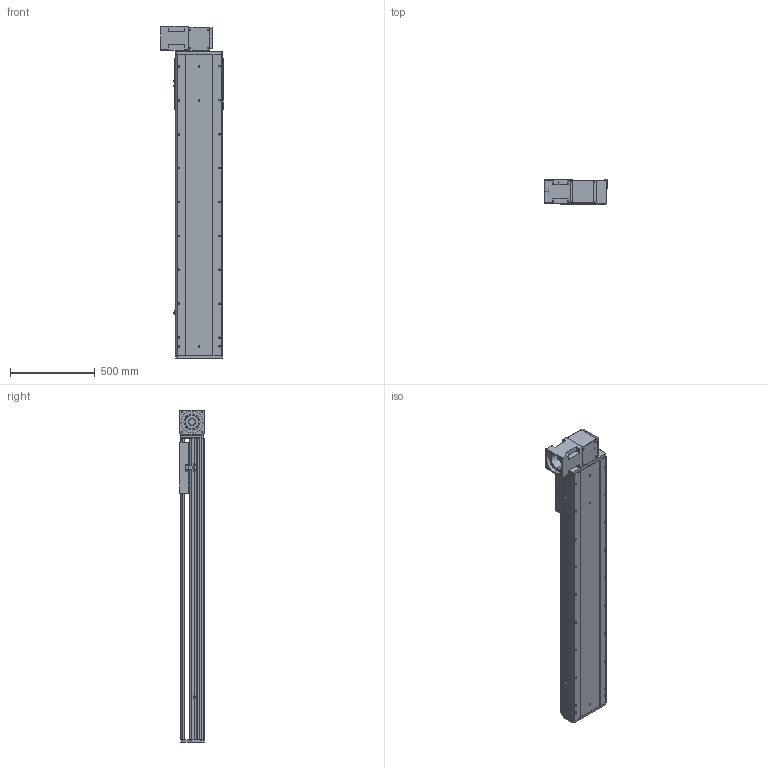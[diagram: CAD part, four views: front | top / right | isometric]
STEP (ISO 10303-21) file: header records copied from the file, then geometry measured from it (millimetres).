
FILE_DESCRIPTION (( 'STEP AP214' ), '1' );
FILE_NAME ('RTB28R-XX-1350-BR-M100-XX-C4.STEP', '2025-12-22T01:12:33', ( '' ), ( '' ), 'SwSTEP 2.0', 'SolidWorks 2018', '' );
FILE_SCHEMA (( 'AUTOMOTIVE_DESIGN' ));
Length unit declared in the file: millimetre
Products named in the file (4): RTB28S-GY-004^RTB28R-XX-XX-BR-M100-XX-C4; RTB28R-XX-1350-BR-M100-XX-C4; RTB28S-GY-011^RTB28R-XX-XX-BR-M100-XX-C4; RTB28S-GY-008^RTB28R-XX-XX-BR-M100-XX-C4
Assembly tree (3 placements, depth 2):
  RTB28R-XX-1350-BR-M100-XX-C4
    RTB28S-GY-011^RTB28R-XX-XX-BR-M100-XX-C4
    RTB28S-GY-004^RTB28R-XX-XX-BR-M100-XX-C4
    RTB28S-GY-008^RTB28R-XX-XX-BR-M100-XX-C4
Bounding box: 370 x 145 x 1957 mm (x, y, z)
Volume: 35119154.6 mm3; surface area: 3360371.5 mm2
Topology: 3 solids, 4 shells, 1008 faces, 2670 edges, 1716 vertices
Faces by surface type: plane 460, cylinder 377, bspline 87, cone 80, torus 4
Entity records: 43174 total; most frequent: CARTESIAN_POINT 11545, ORIENTED_EDGE 5276, DIRECTION 5130, EDGE_CURVE 2638, AXIS2_PLACEMENT_3D 1769, VERTEX_POINT 1716, LINE 1592, VECTOR 1592
